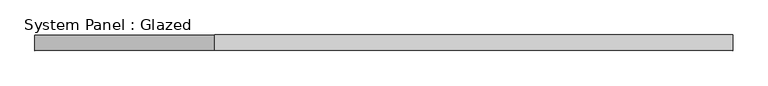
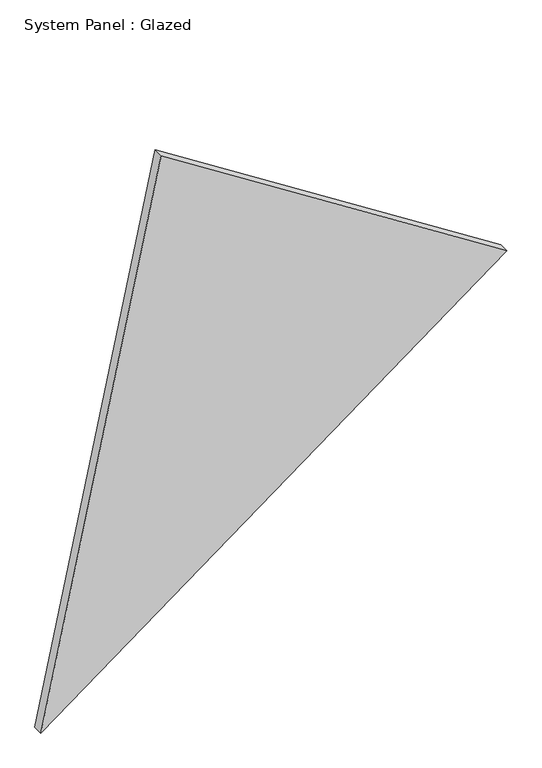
"""IFC4 building model written with IfcOpenShell, lengths in millimetres: plate geometry, System Panel : Glazed."""

from ifc_helpers import new_model, si_unit, frame, origin, place, context, project, spatial, polyline, outline, extrude, source, transform, mapped, element, save


def system_panel_glazed_c7fad30a(model_context):
    return source(origin(), model_context, "Body", "SweptSolid", [
        extrude(outline(polyline([(0.0, -560.9701085), (833.6029424, 560.9701085), (1367.4563804, -271.6488964), (0.0, -560.9701085)])), frame((0.0, -49.5, 0.0), z_axis=(0.0, 1.0, 0.0), x_axis=(0.0, 0.0, 1.0)), (0.0, 0.0, 1.0), 25.0),
    ])


if __name__ == "__main__":
    model = new_model("IFC4")
    model_context = context("Model", 3, world=origin())
    ifc_project = project(units=[si_unit("LENGTHUNIT", "METRE", prefix="MILLI")], contexts=[model_context])
    site = spatial("IfcSite", under=ifc_project)
    building = spatial("IfcBuilding", under=site)
    placement = place(None, origin())
    system_panel_glazed_shape = system_panel_glazed_c7fad30a(model_context)
    element("IfcPlate", 1, ObjectType="System Panel : Glazed", at=placement, inside=building, context=model_context, shape_type="MappedRepresentation", body=[
        mapped(system_panel_glazed_shape, transform((0.0, 0.0, 0.0), x_axis=(1.0, 0.0, 0.0), y_axis=(0.0, 1.0, 0.0), z_axis=(0.0, 0.0, 1.0))),
    ])
    save(model, "model.ifc")
